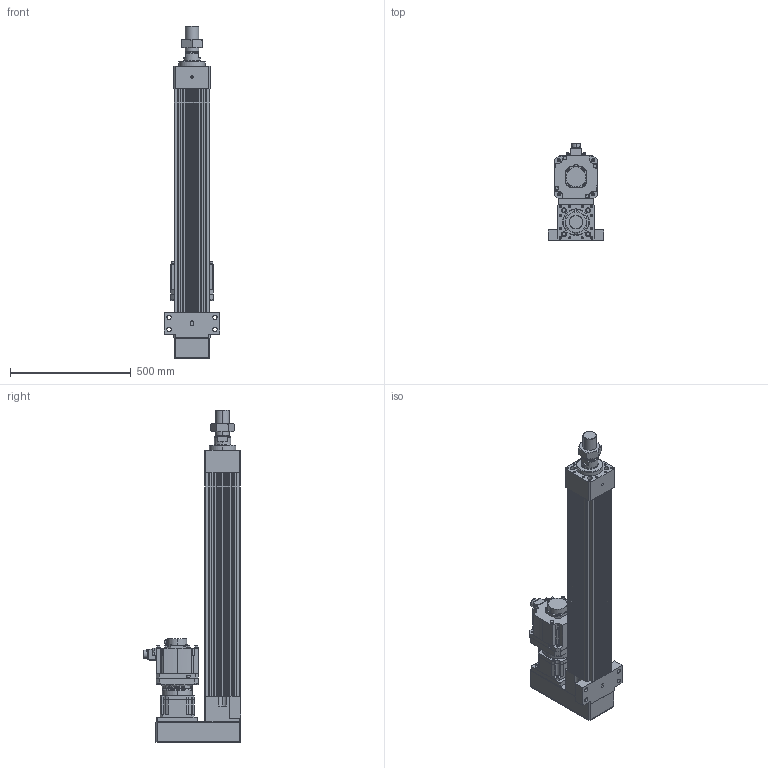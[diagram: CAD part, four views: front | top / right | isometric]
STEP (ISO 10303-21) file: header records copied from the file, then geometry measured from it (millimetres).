
FILE_DESCRIPTION (( 'STEP AP203' ), '1' );
FILE_NAME ('HES150NS(HS)-P650-W035G00-M-FFC.STEP', '2023-01-31T09:56:37', ( 'tms' ), ( '' ), 'SwSTEP 2.0', 'SolidWorks 2013', '' );
FILE_SCHEMA (( 'CONFIG_CONTROL_DESIGN' ));
Length unit declared in the file: millimetre
Products named in the file (9): HES150NS(HS)-P650-W035G00-M-FFC; HES150 ROD M ST650; AB142-003[HG-SR352]; P1301500001; HES150-P650-G142-FFC; P0403500801; M56X2.0P; HG-SR352; AB1421
Assembly tree (8 placements, depth 3):
  HES150NS(HS)-P650-W035G00-M-FFC
    HES150-P650-G142-FFC
    HES150 ROD M ST650
    M56X2.0P
    AB142-003[HG-SR352]
      AB1421
      P1301500001
      P0403500801
    HG-SR352
Bounding box: 230 x 403.85 x 1376 mm (x, y, z)
Volume: 21908096.6 mm3; surface area: 2242193.6 mm2
Topology: 4 solids, 18 shells, 1470 faces, 3831 edges, 2471 vertices
Faces by surface type: cylinder 693, plane 529, cone 166, bspline 76, torus 6
Entity records: 53945 total; most frequent: CARTESIAN_POINT 16549, DIRECTION 7839, ORIENTED_EDGE 7520, EDGE_CURVE 3782, AXIS2_PLACEMENT_3D 2986, VERTEX_POINT 2471, LINE 1867, VECTOR 1867
